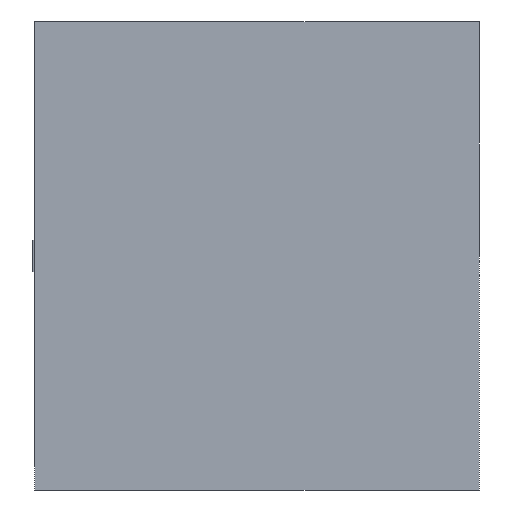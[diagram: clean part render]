
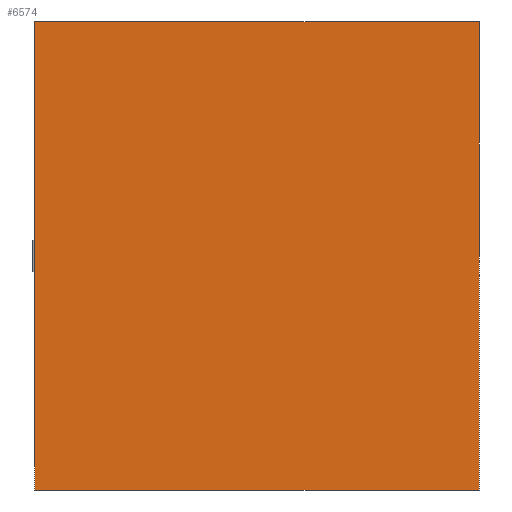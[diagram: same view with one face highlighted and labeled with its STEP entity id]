
A CAD part, left-side view. The second image highlights one B-rep face of the part: STEP entity #6574.
In plain terms, the highlighted planar face has unit normal (-1, 0, 0).
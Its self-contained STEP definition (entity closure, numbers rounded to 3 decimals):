
#102 = CARTESIAN_POINT ( 'NONE',  ( -200., 0., 150. ) ) ;
#164 = CARTESIAN_POINT ( 'NONE',  ( -200., 285., -150. ) ) ;
#360 = DIRECTION ( 'NONE',  ( 0., 0., 1. ) ) ;
#478 = LINE ( 'NONE', #7565, #6170 ) ;
#541 = DIRECTION ( 'NONE',  ( 0., -1., 0. ) ) ;
#560 = CARTESIAN_POINT ( 'NONE',  ( -200., 285., 150. ) ) ;
#632 = FACE_OUTER_BOUND ( 'NONE', #3153, .T. ) ;
#696 = ORIENTED_EDGE ( 'NONE', *, *, #1083, .T. ) ;
#1083 = EDGE_CURVE ( 'NONE', #7988, #1901, #478, .T. ) ;
#1205 = EDGE_CURVE ( 'NONE', #1901, #7991, #6354, .T. ) ;
#1659 = ORIENTED_EDGE ( 'NONE', *, *, #1205, .T. ) ;
#1901 = VERTEX_POINT ( 'NONE', #3783 ) ;
#2341 = EDGE_CURVE ( 'NONE', #4850, #7991, #6324, .T. ) ;
#3153 = EDGE_LOOP ( 'NONE', ( #1659, #6660, #7706, #696 ) ) ;
#3209 = DIRECTION ( 'NONE',  ( 1., 0., 0. ) ) ;
#3706 = CARTESIAN_POINT ( 'NONE',  ( -200., 285., 150. ) ) ;
#3783 = CARTESIAN_POINT ( 'NONE',  ( -200., 0., -150. ) ) ;
#3899 = DIRECTION ( 'NONE',  ( 0., 0., -1. ) ) ;
#4334 = VECTOR ( 'NONE', #541, 1000. ) ;
#4407 = EDGE_CURVE ( 'NONE', #7988, #4850, #8152, .T. ) ;
#4850 = VERTEX_POINT ( 'NONE', #6142 ) ;
#5287 = CARTESIAN_POINT ( 'NONE',  ( -200., 0., 150. ) ) ;
#6049 = VECTOR ( 'NONE', #360, 1000. ) ;
#6142 = CARTESIAN_POINT ( 'NONE',  ( -200., 285., 150. ) ) ;
#6170 = VECTOR ( 'NONE', #6960, 1000. ) ;
#6324 = LINE ( 'NONE', #3706, #4334 ) ;
#6354 = LINE ( 'NONE', #102, #6962 ) ;
#6479 = DIRECTION ( 'NONE',  ( 0., 0., 1. ) ) ;
#6574 = ADVANCED_FACE ( 'NONE', ( #632 ), #7720, .F. ) ;
#6612 = AXIS2_PLACEMENT_3D ( 'NONE', #560, #3209, #3899 ) ;
#6660 = ORIENTED_EDGE ( 'NONE', *, *, #2341, .F. ) ;
#6895 = CARTESIAN_POINT ( 'NONE',  ( -200., 285., 150. ) ) ;
#6960 = DIRECTION ( 'NONE',  ( 0., -1., 0. ) ) ;
#6962 = VECTOR ( 'NONE', #6479, 1000. ) ;
#7565 = CARTESIAN_POINT ( 'NONE',  ( -200., 285., -150. ) ) ;
#7706 = ORIENTED_EDGE ( 'NONE', *, *, #4407, .F. ) ;
#7720 = PLANE ( 'NONE',  #6612 ) ;
#7988 = VERTEX_POINT ( 'NONE', #164 ) ;
#7991 = VERTEX_POINT ( 'NONE', #5287 ) ;
#8152 = LINE ( 'NONE', #6895, #6049 ) ;
